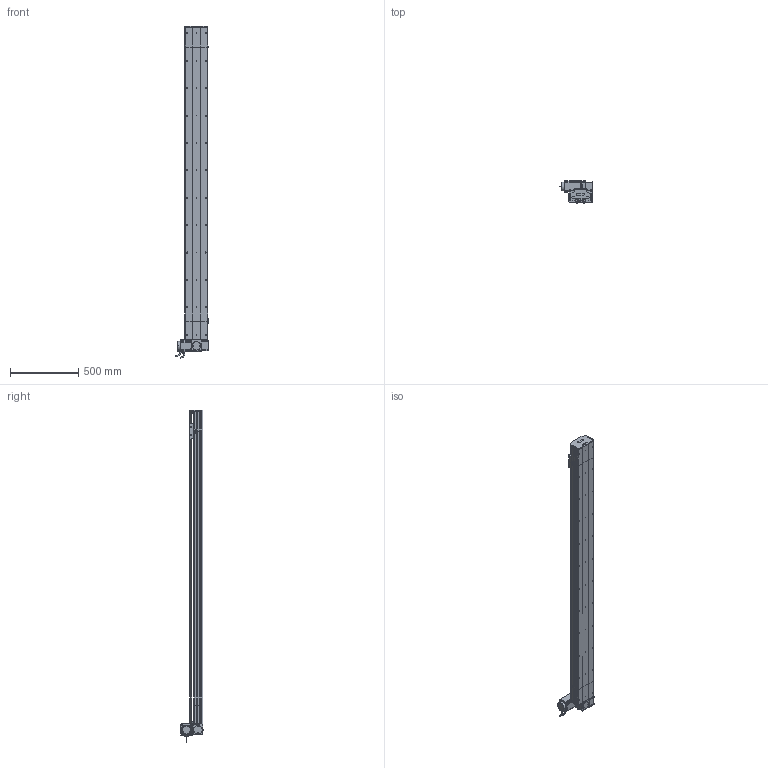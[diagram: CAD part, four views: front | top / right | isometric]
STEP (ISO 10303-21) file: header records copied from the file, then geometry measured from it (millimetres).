
FILE_DESCRIPTION (( 'STEP AP214' ), '1' );
FILE_NAME ('D17 TBN LT S2000.STEP', '2010-06-30T11:19:04', ( 'Christophe Gaillard' ), ( 'SGA' ), 'SwSTEP 2.0', 'SolidWorks 2010', '' );
FILE_SCHEMA (( 'AUTOMOTIVE_DESIGN' ));
Length unit declared in the file: millimetre
Products named in the file (40): corp D17B 2000_Default; couroie head D17_Default; cache arbre D17_Default; poulie head_Default; Renvoi LT_Default; Moteur motionking 90BLDC125A-640; avant 90BLDC125A-640; D17 TBN LT S2000; vis M5 L5_Default; plaque de  bout head D17B LT_Default; Conecteur2_Default; Conecteur_Default; vis M5 L70_Default; Plaque racord D17_Default; couvercle D17B course L2000_Default; Vis M5 L16-2_Default; tete d''axe poulie D17B; corps 90BLDC125A-640; Tail D17B_Default; corpl tail D17B_Default; codeur 90BLDC125-640; Rail D17B; plaque de  bout tail D17B_Default; cache D17_Default; vis M5 L16_Default; vis M5 L8 90°_Default; Couroie tail D17B_Default; couvercle D17B_Default; vis M5 L25_Default; vis M5 L12_Default; Head LT D17B_Default; chariot D17 TBN; poulie tail_Default; corpl head D17 _Default; couvercle D17B head_Default; course 2000 D17B_Default; Arbre+rail head D17B; Couroie+ rail D17 Course 2000 ; Chariot D17 TBN; guide D17
Assembly tree (66 placements, depth 4):
  D17 TBN LT S2000
    course 2000 D17B_Default
      couvercle D17B course L2000_Default
      Couroie+ rail D17 Course 2000 
      corp D17B 2000_Default
    Head LT D17B_Default
      plaque de  bout head D17B LT_Default
      vis M5 L12_Default  x8
      vis M5 L70_Default  x4
      corpl head D17 _Default
      Vis M5 L16-2_Default  x4
      vis M5 L5_Default  x4
      cache D17_Default  x2
      vis M5 L25_Default  x2
      Moteur motionking 90BLDC125A-640
        corps 90BLDC125A-640
        Conecteur_Default
        codeur 90BLDC125-640
        avant 90BLDC125A-640
        Conecteur2_Default
      vis M5 L16_Default  x2
      Renvoi LT_Default
      Plaque racord D17_Default
      couvercle D17B head_Default
      cache arbre D17_Default
      couroie head D17_Default
      poulie head_Default
      Arbre+rail head D17B
    Tail D17B_Default
      plaque de  bout tail D17B_Default
      vis M5 L25_Default  x2
      vis M5 L12_Default  x4
      couvercle D17B_Default
      vis M5 L8 90°_Default  x2
      corpl tail D17B_Default
      tete d''axe poulie D17B
      poulie tail_Default
      Couroie tail D17B_Default
      Rail D17B
    chariot D17 TBN
      guide D17  x2
      Chariot D17 TBN
Bounding box: 245.2 x 166.15 x 2423.95 mm (x, y, z)
Volume: 14177050 mm3; surface area: 4088265.8 mm2
Topology: 89 solids, 89 shells, 2591 faces, 6605 edges, 4258 vertices
Faces by surface type: plane 1533, cylinder 761, bspline 136, cone 80, torus 77, sphere 4
Entity records: 83891 total; most frequent: CARTESIAN_POINT 25019, ORIENTED_EDGE 10382, DIRECTION 9812, EDGE_CURVE 5191, VECTOR 3442, LINE 3442, VERTEX_POINT 3402, AXIS2_PLACEMENT_3D 3185
